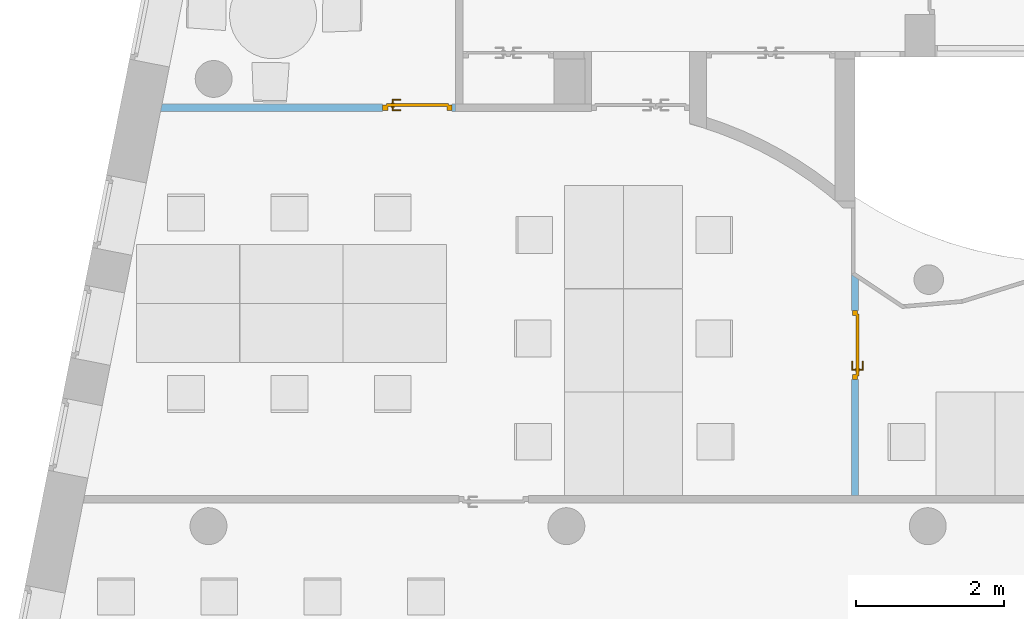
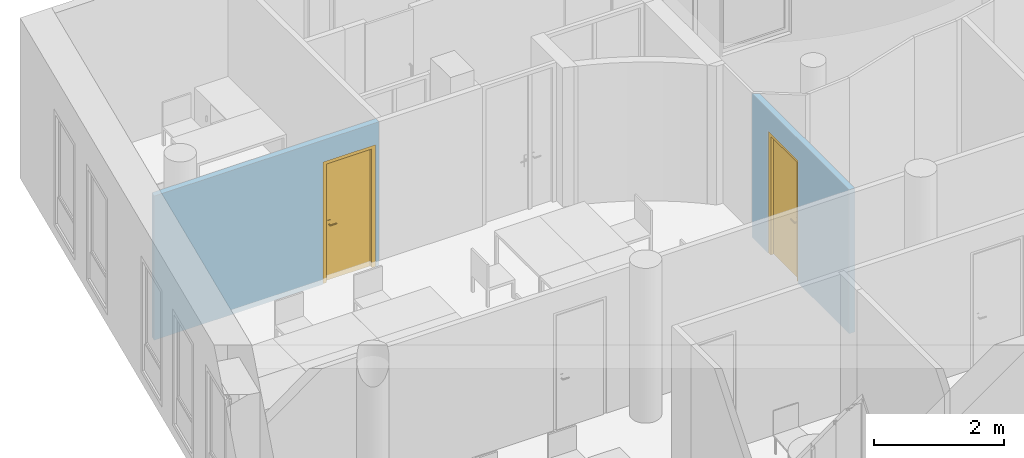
"""IFC4 building model written with IfcOpenShell, lengths in metres."""

from ifc_helpers import new_model, entity, si_unit, converted_unit, derived_unit, frame, origin, origin_with_axes, place, context, subcontext, project, spatial, polyline, outline, extrude, faceted_brep, source, transform, mapped, material, layer, layer_set, layer_usage, element, fill, save


model = new_model("IFC4")

# Units and contexts
model_context = context("Model", 3, precision=1e-05, world=origin())
body_context = subcontext(model_context, "Body", "Model", "MODEL_VIEW")
ifc_project = project(units=[si_unit("LENGTHUNIT", "METRE"), si_unit("AREAUNIT", "SQUARE_METRE"), si_unit("VOLUMEUNIT", "CUBIC_METRE"), si_unit("MASSUNIT", "GRAM", prefix="KILO"), converted_unit("PLANEANGLEUNIT", "DEGREE", entity("IfcPlaneAngleMeasure", 0.0174532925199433), si_unit("PLANEANGLEUNIT", "RADIAN"), dimensions=[0, 0, 0, 0, 0, 0, 0]), derived_unit("THERMALTRANSMITTANCEUNIT", [(si_unit("POWERUNIT", "WATT"), 1), (si_unit("THERMODYNAMICTEMPERATUREUNIT", "KELVIN"), -1), (si_unit("LENGTHUNIT", "METRE"), -2)]), derived_unit("VOLUMETRICFLOWRATEUNIT", [(si_unit("LENGTHUNIT", "METRE"), 3), (converted_unit("TIMEUNIT", "hour", entity("IfcTimeMeasure", 3600.0), si_unit("TIMEUNIT", "SECOND"), dimensions=[0, 0, 1, 0, 0, 0, 0]), -1), (si_unit("LENGTHUNIT", "METRE"), -1)])], contexts=[model_context])

# Building, storeys
building_placement = place(None, origin())
building = spatial("IfcBuilding", under=ifc_project, at=building_placement, Name="HABITATGE PLURIFAMILIAR", CompositionType="ELEMENT")
storey_1_placement = place(building_placement, frame((0.0, 0.0, 9.26)))
storey_1 = spatial("IfcBuildingStorey", under=building, at=storey_1_placement, Name="PLANTA SEGONA", CompositionType="ELEMENT", Elevation=9.26)
storey_2_placement = place(storey_1_placement, frame((0.0, 0.0, 6.25)))
storey_2 = spatial("IfcBuildingStorey", under=storey_1, at=storey_2_placement, Name="NOU", CompositionType="PARTIAL")

# Wall, opening, door
ifc_material_1 = material()
ifc_layer_1 = layer(ifc_material_1, 0.1)
ifc_layer_set_1 = layer_set([ifc_layer_1])
ifc_layer_usage_1 = layer_usage(ifc_layer_set_1, "AXIS2", "POSITIVE", 0.0)
wall_1_placement = place(storey_2_placement, frame((400.337659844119, 23.4194598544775, -6.35)))
wall_1 = element("IfcWall", 1, at=wall_1_placement, inside=storey_2, material=ifc_layer_usage_1, Name="Mampara P2", context=body_context, shape_type="SweptSolid", body=[
    extrude(outline(polyline([(0.0, 0.0), (3.99932493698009, 0.0), (3.99932493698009, 0.1), (0.0198130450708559, 0.1), (0.0, 0.0)])), origin_with_axes(), (0.0, 0.0, 1.0), 2.71),
])
opening_1_placement = place(wall_1_placement, frame((3.94932493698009, 0.1, 0.0), z_axis=(0.0, -1.0, 0.0), x_axis=(0.0, 0.0, 1.0)))
opening_1 = element("IfcOpeningElement", 2, at=opening_1_placement, cuts=wall_1, Name="Vano puerta", ObjectType="Opening", context=body_context, shape_type="SweptSolid", body=[
    extrude(outline(polyline([(2.3, 0.94), (2.3, 0.0), (0.0, 0.0), (0.0, 0.94), (2.3, 0.94)])), origin_with_axes(), (0.0, 0.0, 1.0), 0.1),
])
shared_shape_1 = source(origin_with_axes(), body_context, "Body", "Brep", [
    faceted_brep([(0.0, 0.07, 2.3), (0.0, 0.07, 0.0), (0.07, 0.07, 0.0), (0.07, 0.07, 2.3), (0.0, 0.0, 0.0), (0.0, 0.0, 2.3), (0.07, 0.0, 2.3), (0.07, 0.0, 0.0)], [[[0, 1, 2, 3]], [[4, 5, 6, 7]], [[1, 0, 5, 4]], [[2, 1, 4, 7]], [[3, 2, 7, 6]], [[0, 3, 6, 5]]], orient=[[False], [False], [False], [False], [False], [False]]),
    faceted_brep([(0.87, 0.07, 2.3), (0.87, 0.07, 0.0), (0.94, 0.07, 0.0), (0.94, 0.07, 2.3), (0.87, 0.0, 0.0), (0.87, 0.0, 2.3), (0.94, 0.0, 2.3), (0.94, 0.0, 0.0)], [[[0, 1, 2, 3]], [[4, 5, 6, 7]], [[1, 0, 5, 4]], [[2, 1, 4, 7]], [[3, 2, 7, 6]], [[0, 3, 6, 5]]], orient=[[False], [False], [False], [False], [False], [False]]),
    faceted_brep([(0.07, 0.07, 2.3), (0.07, 0.07, 2.23), (0.87, 0.07, 2.23), (0.87, 0.07, 2.3), (0.07, 0.0, 2.23), (0.07, 0.0, 2.3), (0.87, 0.0, 2.3), (0.87, 0.0, 2.23)], [[[0, 1, 2, 3]], [[4, 5, 6, 7]], [[1, 0, 5, 4]], [[2, 1, 4, 7]], [[3, 2, 7, 6]], [[0, 3, 6, 5]]], orient=[[False], [False], [False], [False], [False], [False]]),
    faceted_brep([(0.05, 0.09, 2.25), (0.05, 0.09, 0.0), (0.89, 0.09, 0.0), (0.89, 0.09, 2.25), (0.05, 0.05, 0.0), (0.05, 0.05, 2.25), (0.89, 0.05, 2.25), (0.89, 0.05, 0.0)], [[[0, 1, 2, 3]], [[4, 5, 6, 7]], [[1, 0, 5, 4]], [[2, 1, 4, 7]], [[3, 2, 7, 6]], [[0, 3, 6, 5]]], orient=[[False], [False], [False], [False], [False], [False]]),
    faceted_brep([(0.11, 0.05, 1.125), (0.11, 0.05, 0.91), (0.16, 0.05, 0.91), (0.16, 0.05, 1.125), (0.11, 0.04, 0.91), (0.11, 0.04, 1.125), (0.16, 0.04, 1.125), (0.16, 0.04, 0.91)], [[[0, 1, 2, 3]], [[4, 5, 6, 7]], [[1, 0, 5, 4]], [[2, 1, 4, 7]], [[3, 2, 7, 6]], [[0, 3, 6, 5]]], orient=[[False], [False], [False], [False], [False], [False]]),
    faceted_brep([(0.135, 0.04, 1.06), (0.13, 0.04, 1.05866025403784), (0.126339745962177, 0.04, 1.055), (0.125, 0.04, 1.05), (0.126339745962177, 0.04, 1.045), (0.13, 0.04, 1.04133974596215), (0.135, 0.04, 1.04), (0.14, 0.04, 1.04133974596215), (0.143660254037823, 0.04, 1.045), (0.145, 0.04, 1.05), (0.143660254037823, 0.04, 1.055), (0.14, 0.04, 1.05866025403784), (0.135, 0.0, 1.06), (0.13, -0.005, 1.05866025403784), (0.126339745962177, -0.00866025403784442, 1.055), (0.125, -0.01, 1.05), (0.126339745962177, -0.00866025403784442, 1.045), (0.13, -0.005, 1.04133974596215), (0.135, 0.0, 1.04), (0.14, 0.005, 1.04133974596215), (0.143660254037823, 0.00866025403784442, 1.045), (0.145, 0.01, 1.05), (0.143660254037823, 0.00866025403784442, 1.055), (0.14, 0.005, 1.05866025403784), (0.25, 0.0, 1.06), (0.25, 0.005, 1.05866025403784), (0.25, 0.00866025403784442, 1.055), (0.25, 0.01, 1.05), (0.25, 0.00866025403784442, 1.045), (0.25, 0.005, 1.04133974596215), (0.25, 0.0, 1.04), (0.25, -0.005, 1.04133974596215), (0.25, -0.00866025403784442, 1.045), (0.25, -0.01, 1.05), (0.25, -0.00866025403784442, 1.055), (0.25, -0.005, 1.05866025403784)], [[[0, 1, 2, 3, 4, 5, 6, 7, 8, 9, 10, 11]], [[0, 12, 13, 1]], [[1, 13, 14, 2]], [[2, 14, 15, 3]], [[3, 15, 16, 4]], [[4, 16, 17, 5]], [[5, 17, 18, 6]], [[6, 18, 19, 7]], [[7, 19, 20, 8]], [[8, 20, 21, 9]], [[9, 21, 22, 10]], [[10, 22, 23, 11]], [[11, 23, 12, 0]], [[24, 25, 26, 27, 28, 29, 30, 31, 32, 33, 34, 35]], [[12, 24, 35, 13]], [[13, 35, 34, 14]], [[14, 34, 33, 15]], [[15, 33, 32, 16]], [[16, 32, 31, 17]], [[17, 31, 30, 18]], [[18, 30, 29, 19]], [[19, 29, 28, 20]], [[20, 28, 27, 21]], [[21, 27, 26, 22]], [[22, 26, 25, 23]], [[23, 25, 24, 12]]], orient=[[False], [False], [False], [False], [False], [False], [False], [False], [False], [False], [False], [False], [False], [False], [False], [False], [False], [False], [False], [False], [False], [False], [False], [False], [False], [False]]),
    faceted_brep([(0.11, 0.09, 1.125), (0.16, 0.09, 1.125), (0.16, 0.09, 0.91), (0.11, 0.09, 0.91), (0.11, 0.1, 0.91), (0.16, 0.1, 0.91), (0.16, 0.1, 1.125), (0.11, 0.1, 1.125)], [[[0, 1, 2, 3]], [[4, 5, 6, 7]], [[3, 4, 7, 0]], [[2, 5, 4, 3]], [[1, 6, 5, 2]], [[0, 7, 6, 1]]], orient=[[False], [False], [False], [False], [False], [False]]),
    faceted_brep([(0.135, 0.1, 1.06), (0.14, 0.1, 1.05866025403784), (0.143660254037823, 0.1, 1.055), (0.145, 0.1, 1.05), (0.143660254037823, 0.1, 1.045), (0.14, 0.1, 1.04133974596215), (0.135, 0.1, 1.04), (0.13, 0.1, 1.04133974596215), (0.126339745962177, 0.1, 1.045), (0.125, 0.1, 1.05), (0.126339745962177, 0.1, 1.055), (0.13, 0.1, 1.05866025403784), (0.13, 0.145, 1.05866025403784), (0.135, 0.14, 1.06), (0.126339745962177, 0.148660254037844, 1.055), (0.125, 0.15, 1.05), (0.126339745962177, 0.148660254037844, 1.045), (0.13, 0.145, 1.04133974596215), (0.135, 0.14, 1.04), (0.14, 0.135, 1.04133974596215), (0.143660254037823, 0.131339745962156, 1.045), (0.145, 0.13, 1.05), (0.143660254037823, 0.131339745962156, 1.055), (0.14, 0.135, 1.05866025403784), (0.25, 0.14, 1.06), (0.25, 0.145, 1.05866025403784), (0.25, 0.148660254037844, 1.055), (0.25, 0.15, 1.05), (0.25, 0.148660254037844, 1.045), (0.25, 0.145, 1.04133974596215), (0.25, 0.14, 1.04), (0.25, 0.135, 1.04133974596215), (0.25, 0.131339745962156, 1.045), (0.25, 0.13, 1.05), (0.25, 0.131339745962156, 1.055), (0.25, 0.135, 1.05866025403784)], [[[0, 1, 2, 3, 4, 5, 6, 7, 8, 9, 10, 11]], [[0, 11, 12, 13]], [[11, 10, 14, 12]], [[10, 9, 15, 14]], [[9, 8, 16, 15]], [[8, 7, 17, 16]], [[7, 6, 18, 17]], [[6, 5, 19, 18]], [[5, 4, 20, 19]], [[4, 3, 21, 20]], [[3, 2, 22, 21]], [[2, 1, 23, 22]], [[1, 0, 13, 23]], [[24, 25, 26, 27, 28, 29, 30, 31, 32, 33, 34, 35]], [[13, 12, 25, 24]], [[12, 14, 26, 25]], [[14, 15, 27, 26]], [[15, 16, 28, 27]], [[16, 17, 29, 28]], [[17, 18, 30, 29]], [[18, 19, 31, 30]], [[19, 20, 32, 31]], [[20, 21, 33, 32]], [[21, 22, 34, 33]], [[22, 23, 35, 34]], [[23, 13, 24, 35]]], orient=[[False], [False], [False], [False], [False], [False], [False], [False], [False], [False], [False], [False], [False], [False], [False], [False], [False], [False], [False], [False], [False], [False], [False], [False], [False], [False]]),
])
door_1_placement = place(opening_1_placement, frame((0.0, 0.94, 0.085), z_axis=(1.0, 0.0, 0.0), x_axis=(0.0, -1.0, 0.0)))
door_1 = element("IfcDoor", 3, at=door_1_placement, inside=storey_2, Name="Porta P2", OperationType="USERDEFINED", OverallHeight=2.3, OverallWidth=0.94, PredefinedType="DOOR", context=body_context, shape_type="MappedRepresentation", body=[
    mapped(shared_shape_1, transform((0.0, 0.0, 0.0), x_axis=(1.0, 0.0, 0.0), y_axis=(0.0, 1.0, 0.0), z_axis=(0.0, 0.0, 1.0), scale=1.0)),
])
fill(opening_1, door_1)

ifc_material_2 = material()
ifc_layer_2 = layer(ifc_material_2, 0.1)
ifc_layer_set_2 = layer_set([ifc_layer_2])
ifc_layer_usage_2 = layer_usage(ifc_layer_set_2, "AXIS2", "POSITIVE", 0.0)
wall_2_placement = place(storey_2_placement, frame((409.796984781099, 18.2154678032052, -6.35), z_axis=(0.0, 0.0, 1.0), x_axis=(0.0, 1.0, 0.0)))
wall_2 = element("IfcWall", 4, at=wall_2_placement, inside=storey_2, material=ifc_layer_usage_2, Name="Mampara P2", context=body_context, shape_type="SweptSolid", body=[
    extrude(outline(polyline([(0.0, -0.1), (2.92741102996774, -0.1), (2.99415874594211, 0.0), (0.0, 0.0), (0.0, -0.1)])), frame((0.0, 0.1, 0.0), z_axis=(0.0, 0.0, 1.0), x_axis=(1.0, 0.0, 0.0)), (0.0, 0.0, 1.0), 2.71),
])
opening_2_placement = place(wall_2_placement, frame((2.50879622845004, 0.1, 0.0), z_axis=(0.0, -1.0, 0.0), x_axis=(0.0, 0.0, 1.0)))
opening_2 = element("IfcOpeningElement", 5, at=opening_2_placement, cuts=wall_2, Name="Vano puerta", ObjectType="Opening", context=body_context, shape_type="SweptSolid", body=[
    extrude(outline(polyline([(2.3, 0.94), (2.3, 0.0), (0.0, 0.0), (0.0, 0.94), (2.3, 0.94)])), origin_with_axes(), (0.0, 0.0, 1.0), 0.1),
])
shared_shape_2 = source(origin_with_axes(), body_context, "Body", "Brep", [
    faceted_brep([(0.940000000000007, 0.0699999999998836, 2.3), (0.870000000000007, 0.0699999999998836, 2.3), (0.870000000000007, 0.0699999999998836, 0.0), (0.940000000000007, 0.0699999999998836, 0.0), (0.940000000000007, 0.0, 0.0), (0.870000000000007, 0.0, 0.0), (0.870000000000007, 0.0, 2.3), (0.940000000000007, 0.0, 2.3)], [[[0, 1, 2, 3]], [[4, 5, 6, 7]], [[3, 4, 7, 0]], [[2, 5, 4, 3]], [[1, 6, 5, 2]], [[0, 7, 6, 1]]], orient=[[False], [False], [False], [False], [False], [False]]),
    faceted_brep([(0.0700000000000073, 0.0699999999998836, 2.3), (0.0, 0.0699999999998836, 2.3), (0.0, 0.0699999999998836, 0.0), (0.0700000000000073, 0.0699999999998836, 0.0), (0.0700000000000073, 0.0, 0.0), (0.0, 0.0, 0.0), (0.0, 0.0, 2.3), (0.0700000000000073, 0.0, 2.3)], [[[0, 1, 2, 3]], [[4, 5, 6, 7]], [[3, 4, 7, 0]], [[2, 5, 4, 3]], [[1, 6, 5, 2]], [[0, 7, 6, 1]]], orient=[[False], [False], [False], [False], [False], [False]]),
    faceted_brep([(0.870000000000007, 0.0699999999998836, 2.3), (0.0700000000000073, 0.0699999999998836, 2.3), (0.0700000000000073, 0.0699999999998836, 2.23), (0.870000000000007, 0.0699999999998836, 2.23), (0.870000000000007, 0.0, 2.23), (0.0700000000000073, 0.0, 2.23), (0.0700000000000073, 0.0, 2.3), (0.870000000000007, 0.0, 2.3)], [[[0, 1, 2, 3]], [[4, 5, 6, 7]], [[3, 4, 7, 0]], [[2, 5, 4, 3]], [[1, 6, 5, 2]], [[0, 7, 6, 1]]], orient=[[False], [False], [False], [False], [False], [False]]),
    faceted_brep([(0.890000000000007, 0.0899999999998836, 2.25), (0.0500000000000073, 0.0899999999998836, 2.25), (0.0500000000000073, 0.0899999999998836, 0.0), (0.890000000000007, 0.0899999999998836, 0.0), (0.890000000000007, 0.0499999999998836, 0.0), (0.0500000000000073, 0.0499999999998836, 0.0), (0.0500000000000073, 0.0499999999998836, 2.25), (0.890000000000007, 0.0499999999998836, 2.25)], [[[0, 1, 2, 3]], [[4, 5, 6, 7]], [[3, 4, 7, 0]], [[2, 5, 4, 3]], [[1, 6, 5, 2]], [[0, 7, 6, 1]]], orient=[[False], [False], [False], [False], [False], [False]]),
    faceted_brep([(0.830000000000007, 0.0499999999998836, 1.125), (0.780000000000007, 0.0499999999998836, 1.125), (0.780000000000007, 0.0499999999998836, 0.91), (0.830000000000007, 0.0499999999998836, 0.91), (0.830000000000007, 0.0399999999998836, 0.91), (0.780000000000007, 0.0399999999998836, 0.91), (0.780000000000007, 0.0399999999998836, 1.125), (0.830000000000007, 0.0399999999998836, 1.125)], [[[0, 1, 2, 3]], [[4, 5, 6, 7]], [[3, 4, 7, 0]], [[2, 5, 4, 3]], [[1, 6, 5, 2]], [[0, 7, 6, 1]]], orient=[[False], [False], [False], [False], [False], [False]]),
    faceted_brep([(0.805000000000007, 0.0399999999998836, 1.06), (0.800000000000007, 0.0399999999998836, 1.05866025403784), (0.796339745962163, 0.0399999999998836, 1.055), (0.795000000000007, 0.0399999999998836, 1.05), (0.796339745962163, 0.0399999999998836, 1.045), (0.800000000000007, 0.0399999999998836, 1.04133974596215), (0.805000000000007, 0.0399999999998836, 1.04), (0.810000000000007, 0.0399999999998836, 1.04133974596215), (0.813660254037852, 0.0399999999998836, 1.045), (0.815000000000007, 0.0399999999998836, 1.05), (0.813660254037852, 0.0399999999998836, 1.055), (0.810000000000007, 0.0399999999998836, 1.05866025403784), (0.810000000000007, -0.00500000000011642, 1.05866025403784), (0.805000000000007, 0.0, 1.06), (0.813660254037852, -0.00866025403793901, 1.055), (0.815000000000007, -0.0100000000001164, 1.05), (0.813660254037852, -0.00866025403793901, 1.045), (0.810000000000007, -0.00500000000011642, 1.04133974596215), (0.805000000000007, 0.0, 1.04), (0.800000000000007, 0.00499999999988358, 1.04133974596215), (0.796339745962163, 0.00866025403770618, 1.045), (0.795000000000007, 0.00999999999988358, 1.05), (0.796339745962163, 0.00866025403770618, 1.055), (0.800000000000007, 0.00499999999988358, 1.05866025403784), (0.690000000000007, 0.0, 1.06), (0.690000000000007, -0.00500000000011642, 1.05866025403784), (0.690000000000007, -0.00866025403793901, 1.055), (0.690000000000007, -0.0100000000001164, 1.05), (0.690000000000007, -0.00866025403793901, 1.045), (0.690000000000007, -0.00500000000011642, 1.04133974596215), (0.690000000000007, 0.0, 1.04), (0.690000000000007, 0.00499999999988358, 1.04133974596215), (0.690000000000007, 0.00866025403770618, 1.045), (0.690000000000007, 0.00999999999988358, 1.05), (0.690000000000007, 0.00866025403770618, 1.055), (0.690000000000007, 0.00499999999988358, 1.05866025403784)], [[[0, 1, 2, 3, 4, 5, 6, 7, 8, 9, 10, 11]], [[0, 11, 12, 13]], [[11, 10, 14, 12]], [[10, 9, 15, 14]], [[9, 8, 16, 15]], [[8, 7, 17, 16]], [[7, 6, 18, 17]], [[6, 5, 19, 18]], [[5, 4, 20, 19]], [[4, 3, 21, 20]], [[3, 2, 22, 21]], [[2, 1, 23, 22]], [[1, 0, 13, 23]], [[24, 25, 26, 27, 28, 29, 30, 31, 32, 33, 34, 35]], [[13, 12, 25, 24]], [[12, 14, 26, 25]], [[14, 15, 27, 26]], [[15, 16, 28, 27]], [[16, 17, 29, 28]], [[17, 18, 30, 29]], [[18, 19, 31, 30]], [[19, 20, 32, 31]], [[20, 21, 33, 32]], [[21, 22, 34, 33]], [[22, 23, 35, 34]], [[23, 13, 24, 35]]], orient=[[False], [False], [False], [False], [False], [False], [False], [False], [False], [False], [False], [False], [False], [False], [False], [False], [False], [False], [False], [False], [False], [False], [False], [False], [False], [False]]),
    faceted_brep([(0.830000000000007, 0.0899999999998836, 1.125), (0.830000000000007, 0.0899999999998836, 0.91), (0.780000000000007, 0.0899999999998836, 0.91), (0.780000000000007, 0.0899999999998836, 1.125), (0.830000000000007, 0.0999999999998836, 0.91), (0.830000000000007, 0.0999999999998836, 1.125), (0.780000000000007, 0.0999999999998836, 1.125), (0.780000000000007, 0.0999999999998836, 0.91)], [[[0, 1, 2, 3]], [[4, 5, 6, 7]], [[1, 0, 5, 4]], [[2, 1, 4, 7]], [[3, 2, 7, 6]], [[0, 3, 6, 5]]], orient=[[False], [False], [False], [False], [False], [False]]),
    faceted_brep([(0.805000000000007, 0.0999999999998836, 1.06), (0.810000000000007, 0.0999999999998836, 1.05866025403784), (0.813660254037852, 0.0999999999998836, 1.055), (0.815000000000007, 0.0999999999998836, 1.05), (0.813660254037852, 0.0999999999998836, 1.045), (0.810000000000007, 0.0999999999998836, 1.04133974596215), (0.805000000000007, 0.0999999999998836, 1.04), (0.800000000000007, 0.0999999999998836, 1.04133974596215), (0.796339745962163, 0.0999999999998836, 1.045), (0.795000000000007, 0.0999999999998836, 1.05), (0.796339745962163, 0.0999999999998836, 1.055), (0.800000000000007, 0.0999999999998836, 1.05866025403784), (0.805000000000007, 0.139999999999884, 1.06), (0.810000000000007, 0.144999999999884, 1.05866025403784), (0.813660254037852, 0.148660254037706, 1.055), (0.815000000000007, 0.149999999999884, 1.05), (0.813660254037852, 0.148660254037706, 1.045), (0.810000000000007, 0.144999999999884, 1.04133974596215), (0.805000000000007, 0.139999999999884, 1.04), (0.800000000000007, 0.134999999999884, 1.04133974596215), (0.796339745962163, 0.131339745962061, 1.045), (0.795000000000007, 0.129999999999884, 1.05), (0.796339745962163, 0.131339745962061, 1.055), (0.800000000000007, 0.134999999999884, 1.05866025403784), (0.690000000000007, 0.139999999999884, 1.06), (0.690000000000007, 0.134999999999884, 1.05866025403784), (0.690000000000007, 0.131339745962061, 1.055), (0.690000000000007, 0.129999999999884, 1.05), (0.690000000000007, 0.131339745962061, 1.045), (0.690000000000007, 0.134999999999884, 1.04133974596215), (0.690000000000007, 0.139999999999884, 1.04), (0.690000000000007, 0.144999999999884, 1.04133974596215), (0.690000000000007, 0.148660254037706, 1.045), (0.690000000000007, 0.149999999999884, 1.05), (0.690000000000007, 0.148660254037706, 1.055), (0.690000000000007, 0.144999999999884, 1.05866025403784)], [[[0, 1, 2, 3, 4, 5, 6, 7, 8, 9, 10, 11]], [[0, 12, 13, 1]], [[1, 13, 14, 2]], [[2, 14, 15, 3]], [[3, 15, 16, 4]], [[4, 16, 17, 5]], [[5, 17, 18, 6]], [[6, 18, 19, 7]], [[7, 19, 20, 8]], [[8, 20, 21, 9]], [[9, 21, 22, 10]], [[10, 22, 23, 11]], [[11, 23, 12, 0]], [[24, 25, 26, 27, 28, 29, 30, 31, 32, 33, 34, 35]], [[12, 24, 35, 13]], [[13, 35, 34, 14]], [[14, 34, 33, 15]], [[15, 33, 32, 16]], [[16, 32, 31, 17]], [[17, 31, 30, 18]], [[18, 30, 29, 19]], [[19, 29, 28, 20]], [[20, 28, 27, 21]], [[21, 27, 26, 22]], [[22, 26, 25, 23]], [[23, 25, 24, 12]]], orient=[[False], [False], [False], [False], [False], [False], [False], [False], [False], [False], [False], [False], [False], [False], [False], [False], [False], [False], [False], [False], [False], [False], [False], [False], [False], [False]]),
])
door_2_placement = place(opening_2_placement, frame((0.0, 0.0, 0.015), z_axis=(1.0, 0.0, 0.0), x_axis=(0.0, 1.0, 0.0)))
door_2 = element("IfcDoor", 6, at=door_2_placement, inside=storey_2, Name="Porta P2", OperationType="USERDEFINED", OverallHeight=2.3, OverallWidth=0.94, PredefinedType="DOOR", context=body_context, shape_type="MappedRepresentation", body=[
    mapped(shared_shape_2, transform((0.0, 0.0, 0.0), x_axis=(1.0, 0.0, 0.0), y_axis=(0.0, 1.0, 0.0), z_axis=(0.0, 0.0, 1.0), scale=1.0)),
])
fill(opening_2, door_2)

save(model, "model.ifc")
